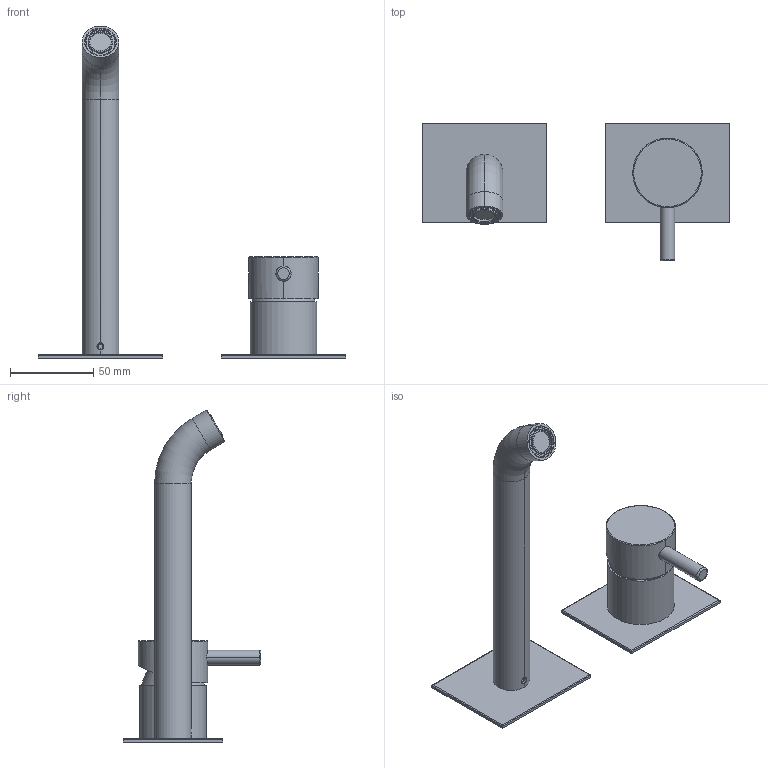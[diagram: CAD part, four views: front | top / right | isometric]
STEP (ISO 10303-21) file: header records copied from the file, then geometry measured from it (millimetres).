
FILE_DESCRIPTION((''),'2;1');
FILE_NAME('12549_SW0001','2024-03-19T15:36:18',('carloff'),(''),'CREO PARAMETRIC BY PTC INC, 2022014','CREO PARAMETRIC BY PTC INC, 2022014','');
FILE_SCHEMA(('CONFIG_CONTROL_DESIGN'));
Products named in the file (1): 12549_SW0001
Bounding box: 185 x 82.9 x 199.53 mm (x, y, z)
Volume: 102732.3 mm3; surface area: 91593.4 mm2
Topology: 5 solids, 5 shells, 855 faces, 2451 edges, 1614 vertices
Faces by surface type: plane 329, cylinder 323, torus 80, cone 76, bspline 41, sphere 6
Entity records: 53746 total; most frequent: CARTESIAN_POINT 31530, ORIENTED_EDGE 4894, DIRECTION 4428, EDGE_CURVE 2447, AXIS2_PLACEMENT_3D 1646, VERTEX_POINT 1614, VECTOR 1136, LINE 1136
